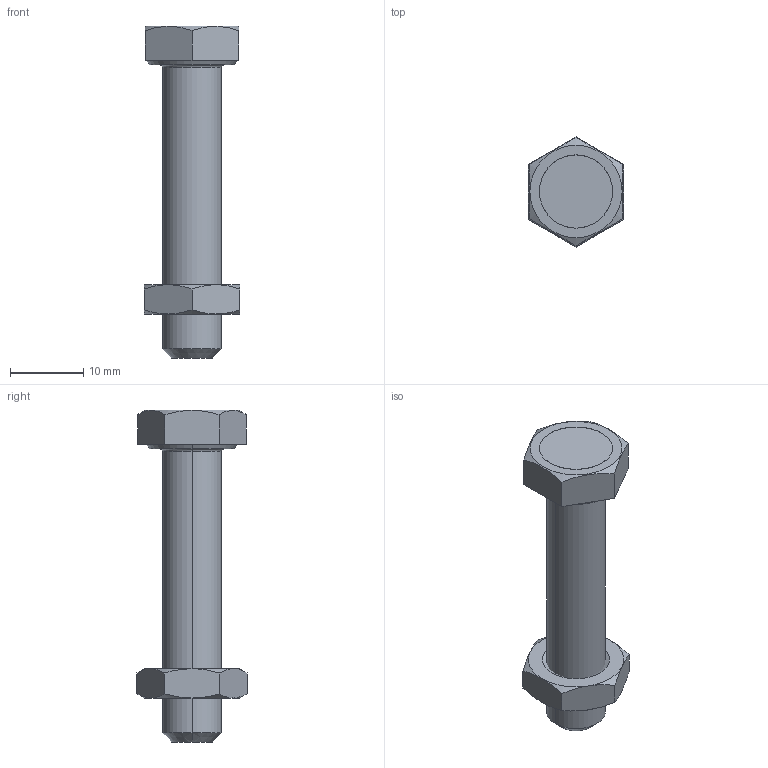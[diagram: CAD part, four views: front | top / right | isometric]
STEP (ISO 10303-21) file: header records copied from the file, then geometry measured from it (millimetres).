
FILE_DESCRIPTION (( 'STEP AP214' ), '1' );
FILE_NAME ('251.6-M8-40-ND.step', '2019-04-12T06:41:27', ( 'user' ), ( '' ), 'SwSTEP 2.0', 'SolidWorks 2019', '' );
FILE_SCHEMA (( 'AUTOMOTIVE_DESIGN' ));
Length unit declared in the file: millimetre
Products named in the file (3): Kopie von 251.6^WB251.6_M8-40-ND; WB4035_M08-04-ZB; 251.6-M8-40-ND
Assembly tree (2 placements, depth 2):
  251.6-M8-40-ND
    Kopie von 251.6^WB251.6_M8-40-ND
    WB4035_M08-04-ZB
Bounding box: 13 x 15.01 x 45.3 mm (x, y, z)
Volume: 3141.8 mm3; surface area: 1930 mm2
Topology: 2 solids, 2 shells, 52 faces, 112 edges, 68 vertices
Faces by surface type: cone 22, plane 20, cylinder 8, torus 2
Entity records: 1672 total; most frequent: CARTESIAN_POINT 437, DIRECTION 238, ORIENTED_EDGE 224, EDGE_CURVE 112, AXIS2_PLACEMENT_3D 101, VERTEX_POINT 68, EDGE_LOOP 58, FACE_OUTER_BOUND 52
